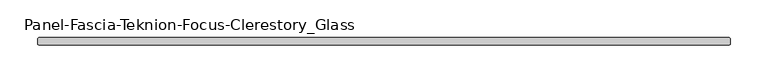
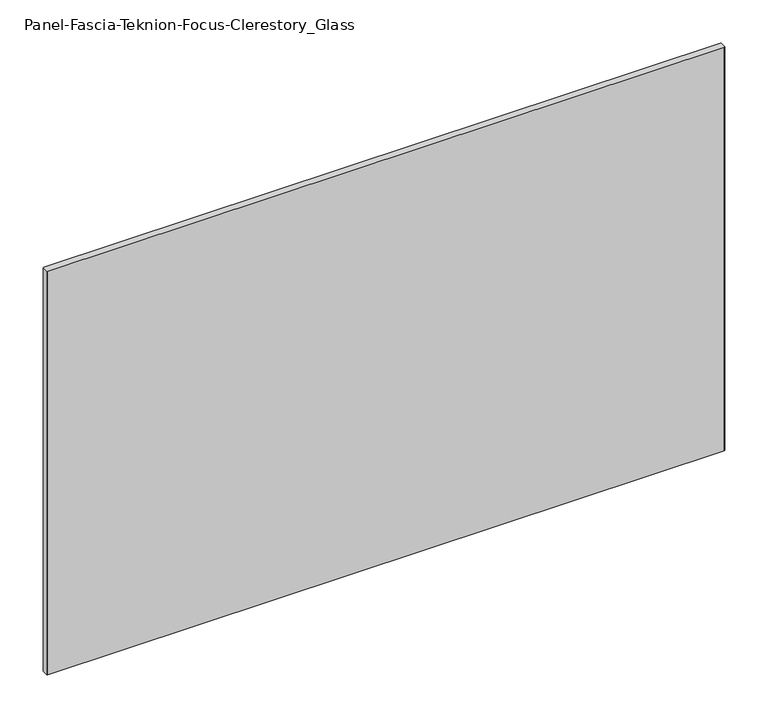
"""IFC4 building model written with IfcOpenShell, lengths in millimetres: proxy geometry, Panel-Fascia-Teknion-Focus-Clerestory_Glass : FWGS."""

from ifc_helpers import new_model, si_unit, origin, origin_with_axes, place, context, project, spatial, polyline, outline, extrude, source, transform, mapped, element, save


def panel_fascia_teknion_focus_clerestory_glass_8944ff04(model_context):
    return source(origin(), model_context, "Body", "SweptSolid", [
        extrude(outline(polyline([(456.2, 5.0), (457.2, 4.0), (457.2, -4.0), (456.2, -5.0), (-456.2, -5.0), (-457.2, -4.0), (-457.2, 4.0), (-456.2, 5.0), (456.2, 5.0)])), origin_with_axes(), (0.0, 0.0, 1.0), 575.100011),
    ])


if __name__ == "__main__":
    model = new_model("IFC4")
    model_context = context("Model", 3, world=origin())
    ifc_project = project(units=[si_unit("LENGTHUNIT", "METRE", prefix="MILLI")], contexts=[model_context])
    site = spatial("IfcSite", under=ifc_project)
    building = spatial("IfcBuilding", under=site)
    placement = place(None, origin())
    panel_fascia_teknion_focus_clerestory_glass_shape = panel_fascia_teknion_focus_clerestory_glass_8944ff04(model_context)
    element("IfcBuildingElementProxy", 1, Name="Panel-Fascia-Teknion-Focus-Clerestory_Glass : FWGS", ObjectType="Panel-Fascia-Teknion-Focus-Clerestory_Glass : FWGS", at=placement, inside=building, context=model_context, shape_type="MappedRepresentation", body=[
        mapped(panel_fascia_teknion_focus_clerestory_glass_shape, transform((0.0, 0.0, 0.0), x_axis=(1.0, 0.0, 0.0), y_axis=(0.0, 1.0, 0.0), z_axis=(0.0, 0.0, 1.0))),
    ])
    save(model, "model.ifc")
